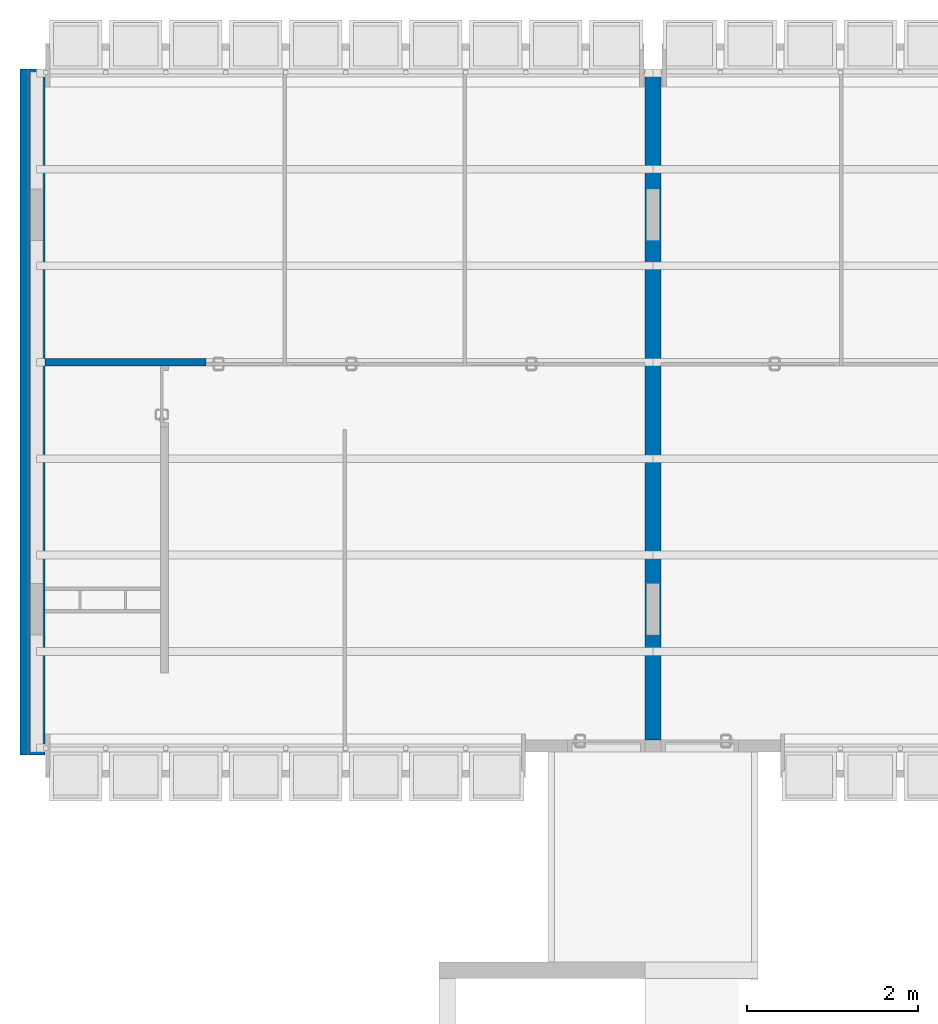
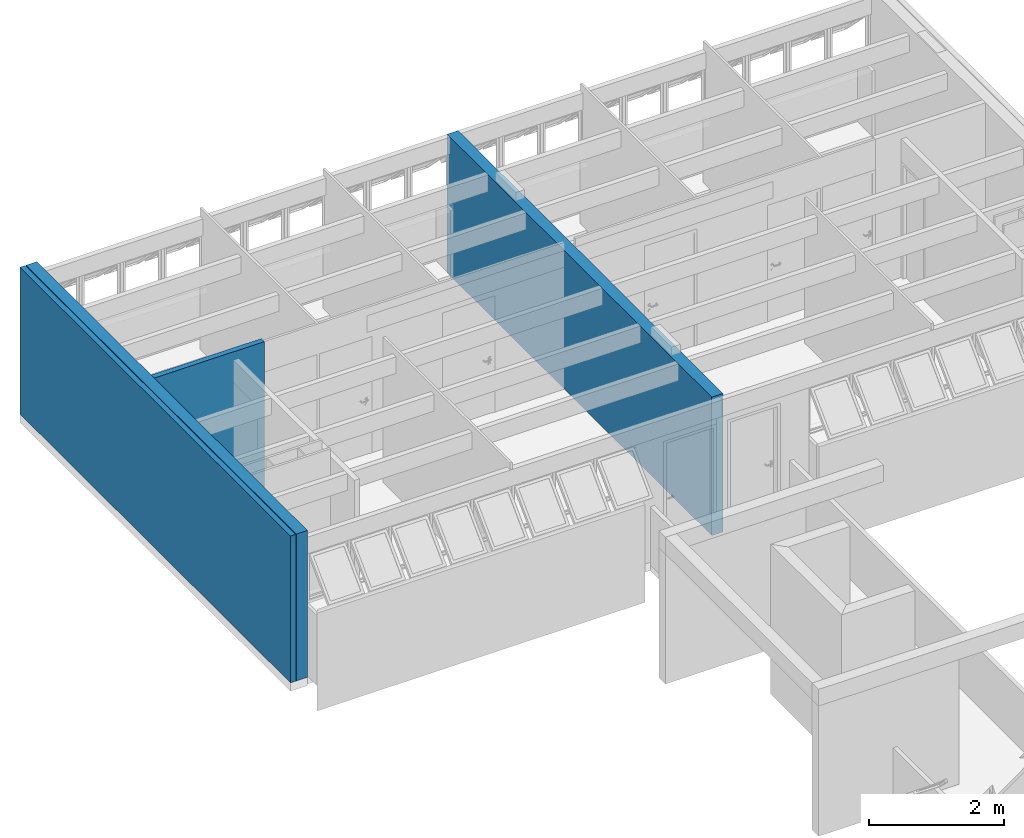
# One storey, part 19 of 37: 4 walls.
"""IFC2X3 building model written with IfcOpenShell, lengths in millimetres."""

import ifcopenshell
import ifcopenshell.guid

model = None  # the IFC model being written
_history = None  # IfcOwnerHistory: only IFC2X3 demands one
_inside = {}  # id of a spatial element -> (the spatial element, [elements in it])
_under = {}  # id of a project, library or spatial element -> (it, [spatial elements below it])
_declared = {}  # id of a project -> (the project, [libraries it declares])
_typed = {}  # id of a type object -> (the type object, [elements of that type])
_made_of = {}  # id of a material, layer set ... -> (it, [elements and type objects made of it])


def new_model(schema):
    """Start an empty IFC model of exactly this schema.

    Asked for "IFC4X3", IfcOpenShell would pick the latest addendum, in which some entities
    have other attributes; the version numbers below select the first issue.
    IFC2X3 requires an IfcOwnerHistory on every rooted entity: one is made here for all.
    """
    global model, _history
    if schema == "IFC4X3":
        model = ifcopenshell.file(schema_version=(4, 3, 0, 0))
    else:
        model = ifcopenshell.file(schema=schema)
    _inside.clear()
    _under.clear()
    _declared.clear()
    _typed.clear()
    _made_of.clear()
    _history = None
    if model.schema == "IFC2X3":
        org = make("IfcOrganization", Name="unknown")
        user = make(
            "IfcPersonAndOrganization",
            ThePerson=make("IfcPerson", FamilyName="unknown"),
            TheOrganization=org,
        )
        app = make(
            "IfcApplication",
            ApplicationDeveloper=org,
            Version="unknown",
            ApplicationFullName="unknown",
            ApplicationIdentifier="unknown",
        )
        _history = make(
            "IfcOwnerHistory",
            OwningUser=user,
            OwningApplication=app,
            ChangeAction="ADDED",
            CreationDate=0,
        )
    return model


def make(cls, **values):
    """One entity of the class cls with the attributes given. An attribute that is None is left unset."""
    return model.create_entity(
        cls, **{name: value for name, value in values.items() if value is not None}
    )


def entity(cls, *values):
    """Any entity or typed value of the class cls, its attributes in the order of the schema. None: left unset."""
    e = model.create_entity(cls)
    for i, value in enumerate(values):
        if value is not None:
            e[i] = value
    return e


def rooted(cls, **values):
    """An entity with a GlobalId (a new one), such as an element, a storey or a relation."""
    return make(cls, GlobalId=ifcopenshell.guid.new(), OwnerHistory=_history, **values)


def si_unit(unit_type, name, prefix=None):
    """IfcSIUnit, for example si_unit("LENGTHUNIT", "METRE", prefix="MILLI")."""
    return make("IfcSIUnit", UnitType=unit_type, Prefix=prefix, Name=name)


def converted_unit(unit_type, name, factor, base, dimensions=None, offset=None):
    """IfcConversionBasedUnit, such as the inch: factor (a typed value) times the base unit."""
    return make(
        "IfcConversionBasedUnit"
        if offset is None
        else "IfcConversionBasedUnitWithOffset",
        ConversionOffset=offset,
        Dimensions=None
        if dimensions is None
        else entity("IfcDimensionalExponents", *dimensions),
        UnitType=unit_type,
        Name=name,
        ConversionFactor=make(
            "IfcMeasureWithUnit", ValueComponent=factor, UnitComponent=base
        ),
    )


def derived_unit(unit_type, elements):
    """IfcDerivedUnit: a product of units, each with its exponent."""
    return make(
        "IfcDerivedUnit",
        Elements=[
            make("IfcDerivedUnitElement", Unit=unit, Exponent=power)
            for unit, power in elements
        ],
        UnitType=unit_type,
    )


def money_unit(currency):
    """IfcMonetaryUnit."""
    return make("IfcMonetaryUnit", Currency=currency)


def assignment(units):
    """IfcUnitAssignment: the units of a project."""
    return None if units is None else make("IfcUnitAssignment", Units=units)


def point(xyz):
    """IfcCartesianPoint."""
    return None if xyz is None else make("IfcCartesianPoint", Coordinates=xyz)


def direction(xyz):
    """IfcDirection."""
    return None if xyz is None else make("IfcDirection", DirectionRatios=xyz)


def frame(location, z_axis=None, x_axis=None):
    """IfcAxis2Placement3D, a coordinate frame: its origin and axes. An axis left out is left unset."""
    return make(
        "IfcAxis2Placement3D",
        Location=point(location),
        Axis=direction(z_axis),
        RefDirection=direction(x_axis),
    )


def origin_with_axes():
    """The frame at (0, 0, 0) with the z axis (0, 0, 1) and the x axis (1, 0, 0) written out."""
    return frame((0.0, 0.0, 0.0), z_axis=(0.0, 0.0, 1.0), x_axis=(1.0, 0.0, 0.0))


def place(relative_to, where):
    """IfcLocalPlacement: puts the frame where relative to a parent placement (None: the world)."""
    return make(
        "IfcLocalPlacement", PlacementRelTo=relative_to, RelativePlacement=where
    )


def context(
    kind, dimensions, precision=None, world=None, true_north=None, identifier=None
):
    """IfcGeometricRepresentationContext, for example the 3D "Model" context."""
    return make(
        "IfcGeometricRepresentationContext",
        ContextIdentifier=identifier,
        ContextType=kind,
        CoordinateSpaceDimension=dimensions,
        Precision=precision,
        WorldCoordinateSystem=world,
        TrueNorth=true_north,
    )


def subcontext(parent, identifier, kind, view, scale=None):
    """IfcGeometricRepresentationSubContext, for example "Body" below "Model"."""
    return make(
        "IfcGeometricRepresentationSubContext",
        ContextIdentifier=identifier,
        ContextType=kind,
        ParentContext=parent,
        TargetScale=scale,
        TargetView=view,
    )


def project(units=None, contexts=None):
    """IfcProject with its units and contexts."""
    return rooted(
        "IfcProject",
        Name="project",
        RepresentationContexts=contexts,
        UnitsInContext=assignment(units),
    )


def spatial(cls, under=None, at=None, **own):
    """A site, building, storey or space (cls), placed at a placement, below another one or the project."""
    s = rooted(cls, ObjectPlacement=at, **own)
    if under is not None:
        _under.setdefault(under.id(), (under, []))[1].append(s)
    return s


def polyline(points):
    """IfcPolyline through the points."""
    return make("IfcPolyline", Points=[point(p) for p in points])


def outline(outer, holes=None, kind="AREA"):
    """IfcArbitraryClosedProfileDef: a profile drawn as a closed curve; with holes, ...WithVoids."""
    if holes is None:
        return make("IfcArbitraryClosedProfileDef", ProfileType=kind, OuterCurve=outer)
    return make(
        "IfcArbitraryProfileDefWithVoids",
        ProfileType=kind,
        OuterCurve=outer,
        InnerCurves=holes,
    )


def extrude(swept, where, along, depth):
    """IfcExtrudedAreaSolid: the profile swept, set in the frame where, extruded along a direction by depth."""
    return make(
        "IfcExtrudedAreaSolid",
        SweptArea=swept,
        Position=where,
        ExtrudedDirection=direction(along),
        Depth=depth,
    )


def shape(context_of_items, identifier, shape_type, items):
    """IfcShapeRepresentation: the items that make up one representation, for example the "Body"."""
    return make(
        "IfcShapeRepresentation",
        ContextOfItems=context_of_items,
        RepresentationIdentifier=identifier,
        RepresentationType=shape_type,
        Items=items,
    )


def material(Name=None, Category=None):
    """IfcMaterial."""
    return make("IfcMaterial", Name=Name, Category=Category)


def layer(
    of_material, thickness, ventilated=None, Name=None, Category=None, Priority=None
):
    """IfcMaterialLayer: one layer of a wall or slab, of a material (None: an air gap)."""
    return make(
        "IfcMaterialLayer",
        Material=of_material,
        LayerThickness=thickness,
        IsVentilated=ventilated,
        Name=Name,
        Category=Category,
        Priority=Priority,
    )


def layer_set(layers, Name=None):
    """IfcMaterialLayerSet."""
    return make("IfcMaterialLayerSet", MaterialLayers=layers, LayerSetName=Name)


def layer_usage(for_layer_set, set_direction, sense, offset, extent=None):
    """IfcMaterialLayerSetUsage: how a layer set lies in its element."""
    return make(
        "IfcMaterialLayerSetUsage",
        ForLayerSet=for_layer_set,
        LayerSetDirection=set_direction,
        DirectionSense=sense,
        OffsetFromReferenceLine=offset,
        ReferenceExtent=extent,
    )


def made_of(thing, what):
    """Note that an element or type object is made of a material, layer set ...; save() writes the relation."""
    if what is not None:
        _made_of.setdefault(what.id(), (what, []))[1].append(thing)
    return thing


def type_object(cls, material=None, **own):
    """A type object (cls), such as IfcWallType, which elements share."""
    return made_of(rooted(cls, **own), material)


def element(
    cls,
    number,
    at=None,
    inside=None,
    cuts=None,
    type_object=None,
    material=None,
    context=None,
    identifier="Body",
    shape_type=None,
    held_by="IfcProductDefinitionShape",
    body=None,
    shapes=None,
    **own,
):
    """One element of the class cls, such as IfcWall. Its Tag is "e" and its number.

    at: its placement. inside: the storey or other place that contains it. cuts: it is an
    opening in that element (IfcRelVoidsElement). A single representation is given by context,
    identifier, shape_type and body (its items); several are given by shapes. held_by: the class
    of the entity that holds the representations. save() writes the other relations.
    """
    e = rooted(cls, Tag="e%d" % number, ObjectPlacement=at, **own)
    if body is not None:
        shapes = [shape(context, identifier, shape_type, body)]
    if shapes is not None:
        e.Representation = make(held_by, Representations=shapes)
    if inside is not None:
        _inside.setdefault(inside.id(), (inside, []))[1].append(e)
    if cuts is not None:
        rooted(
            "IfcRelVoidsElement", RelatingBuildingElement=cuts, RelatedOpeningElement=e
        )
    if type_object is not None:
        _typed.setdefault(type_object.id(), (type_object, []))[1].append(e)
    return made_of(e, material)


def aggregate(whole, parts):
    """IfcRelAggregates: a whole, such as a stair, and the parts it consists of."""
    return rooted("IfcRelAggregates", RelatingObject=whole, RelatedObjects=parts)


def save(model, path):
    """Write the relations noted so far, then the file.

    IfcRelAggregates (storeys below a building ...), IfcRelContainedInSpatialStructure (elements
    in a storey), IfcRelDefinesByType, IfcRelAssociatesMaterial and IfcRelDeclares: one each for
    every whole, place, type object, material and project.
    """
    for whole, parts in _under.values():
        aggregate(whole, parts)
    for where, things in _inside.values():
        rooted(
            "IfcRelContainedInSpatialStructure",
            RelatedElements=things,
            RelatingStructure=where,
        )
    for kind, things in _typed.values():
        rooted("IfcRelDefinesByType", RelatedObjects=things, RelatingType=kind)
    for what, things in _made_of.values():
        rooted("IfcRelAssociatesMaterial", RelatedObjects=things, RelatingMaterial=what)
    for by, libraries in _declared.values():
        rooted("IfcRelDeclares", RelatingContext=by, RelatedDefinitions=libraries)
    model.write(path)


model = new_model("IFC2X3")

# Units and contexts
model_context = context("Model", 3, precision=0.01, world=origin_with_axes(), true_north=direction((0.0, 1.0)))
body_context = subcontext(model_context, "Body", "Model", "MODEL_VIEW")
ifc_project = project(units=[si_unit("LENGTHUNIT", "METRE", prefix="MILLI"), si_unit("AREAUNIT", "SQUARE_METRE"), si_unit("VOLUMEUNIT", "CUBIC_METRE"), converted_unit("PLANEANGLEUNIT", "DEGREE", entity("IfcPlaneAngleMeasure", 0.0174532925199), si_unit("PLANEANGLEUNIT", "RADIAN"), dimensions=[0, 0, 0, 0, 0, 0, 0]), money_unit("USD"), converted_unit("TIMEUNIT", "Year", entity("IfcTimeMeasure", 31556926.0), si_unit("TIMEUNIT", "SECOND"), dimensions=[0, 0, 1, 0, 0, 0, 0]), si_unit("MASSUNIT", "GRAM", prefix="KILO"), si_unit("THERMODYNAMICTEMPERATUREUNIT", "DEGREE_CELSIUS"), si_unit("LUMINOUSINTENSITYUNIT", "LUMEN"), si_unit("ENERGYUNIT", "JOULE", prefix="MEGA"), derived_unit("THERMALCONDUCTANCEUNIT", [(si_unit("POWERUNIT", "WATT"), 1), (si_unit("LENGTHUNIT", "METRE"), -1), (si_unit("THERMODYNAMICTEMPERATUREUNIT", "KELVIN"), -1)]), derived_unit("SPECIFICHEATCAPACITYUNIT", [(si_unit("ENERGYUNIT", "JOULE"), 1), (si_unit("MASSUNIT", "GRAM", prefix="KILO"), -1), (si_unit("THERMODYNAMICTEMPERATUREUNIT", "KELVIN"), -1)]), derived_unit("MASSDENSITYUNIT", [(si_unit("MASSUNIT", "GRAM", prefix="KILO"), 1), (si_unit("VOLUMEUNIT", "CUBIC_METRE"), -1)])], contexts=[model_context])

# Site, building, storey
site_placement = place(None, origin_with_axes())
site = spatial("IfcSite", under=ifc_project, at=site_placement, Name="Local", CompositionType="ELEMENT")
building_placement = place(site_placement, origin_with_axes())
building = spatial("IfcBuilding", under=site, at=building_placement, Name="Construção", CompositionType="ELEMENT")
storey_placement = place(building_placement, frame((0.0, 0.0, 5300.0), z_axis=(0.0, 0.0, 1.0), x_axis=(1.0, 0.0, 0.0)))
storey = spatial("IfcBuildingStorey", under=building, at=storey_placement, Name="Terceiro Pavimento", CompositionType="ELEMENT", Elevation=5300.0)

# Walls
ifc_material = material(Name="GENÉRICO - VEDAÇÃO EXTERNA")
ifc_layer_1 = layer(ifc_material, 190.0, ventilated="UNKNOWN")
ifc_layer_set_1 = layer_set([ifc_layer_1], Name="GENÉRICO - VEDAÇÃO EXTERNA 190")
ifc_layer_usage_1 = layer_usage(ifc_layer_set_1, "AXIS2", "POSITIVE", 0.0)
wall_type_1 = type_object("IfcWallType", Name="GENÉRICO - VEDAÇÃO EXTERNA 190", PredefinedType="NOTDEFINED")
wall_1_placement = place(storey_placement, frame((7480.0, 18035.0, 0.0), z_axis=(0.0, 0.0, 1.0), x_axis=(0.0, 1.0, 0.0)))
element("IfcWallStandardCase", 1, at=wall_1_placement, inside=storey, type_object=wall_type_1, material=ifc_layer_usage_1, Name="CIRC3-PAREDE-029", context=body_context, shape_type="SweptSolid", body=[
    extrude(outline(polyline([(0.0, 0.0), (7825.0, 0.0), (7825.0, 190.0), (0.0, 190.0), (0.0, 0.0)])), origin_with_axes(), (0.0, 0.0, 1.0), 2500.0),
])
ifc_layer_usage_2 = layer_usage(ifc_layer_set_1, "AXIS2", "POSITIVE", 0.0)
wall_2_placement = place(storey_placement, frame((290.0, 17860.0, 0.0), z_axis=(0.0, 0.0, 1.0), x_axis=(0.0, 1.0, 0.0)))
element("IfcWallStandardCase", 2, at=wall_2_placement, inside=storey, type_object=wall_type_1, material=ifc_layer_usage_2, Name="APTO11-PAREDE-013", context=body_context, shape_type="SweptSolid", body=[
    extrude(outline(polyline([(0.0, 0.0), (8000.0, 0.0), (8000.0, 190.0), (0.0, 190.0), (0.0, 0.0)])), origin_with_axes(), (0.0, 0.0, 1.0), 2650.0),
])
ifc_layer_2 = layer(ifc_material, 90.0, ventilated="UNKNOWN")
ifc_layer_set_2 = layer_set([ifc_layer_2], Name="GENÉRICO - VEDAÇÃO EXTERNA 90")
ifc_layer_usage_3 = layer_usage(ifc_layer_set_2, "AXIS2", "POSITIVE", 0.0)
wall_type_2 = type_object("IfcWallType", Name="GENÉRICO - VEDAÇÃO EXTERNA 90", PredefinedType="NOTDEFINED")
wall_3_placement = place(storey_placement, frame((290.0, 22394.7804333, 0.0), z_axis=(0.0, 0.0, 1.0), x_axis=(1.0, 0.0, 0.0)))
element("IfcWallStandardCase", 3, at=wall_3_placement, inside=storey, type_object=wall_type_2, material=ifc_layer_usage_3, Name="APTO11-PAREDE-019", context=body_context, shape_type="SweptSolid", body=[
    extrude(outline(polyline([(0.0, 0.0), (1880.0, 0.0), (1879.99807021, 90.0), (0.0, 90.0), (0.0, 0.0)])), origin_with_axes(), (0.0, 0.0, 1.0), 2650.0),
])
ifc_layer_usage_4 = layer_usage(ifc_layer_set_2, "AXIS2", "POSITIVE", 0.0)
wall_4_placement = place(storey_placement, frame((90.0, 17860.0, 0.0), z_axis=(0.0, 0.0, 1.0), x_axis=(0.0, 1.0, 0.0)))
element("IfcWallStandardCase", 4, at=wall_4_placement, inside=storey, type_object=wall_type_2, material=ifc_layer_usage_4, Name="APTO11-PAREDE-014", context=body_context, shape_type="SweptSolid", body=[
    extrude(outline(polyline([(0.0, 0.0), (8000.0, 0.0), (8000.0, 90.0), (0.0, 90.0), (0.0, 0.0)])), origin_with_axes(), (0.0, 0.0, 1.0), 2650.0),
])

save(model, "model.ifc")
